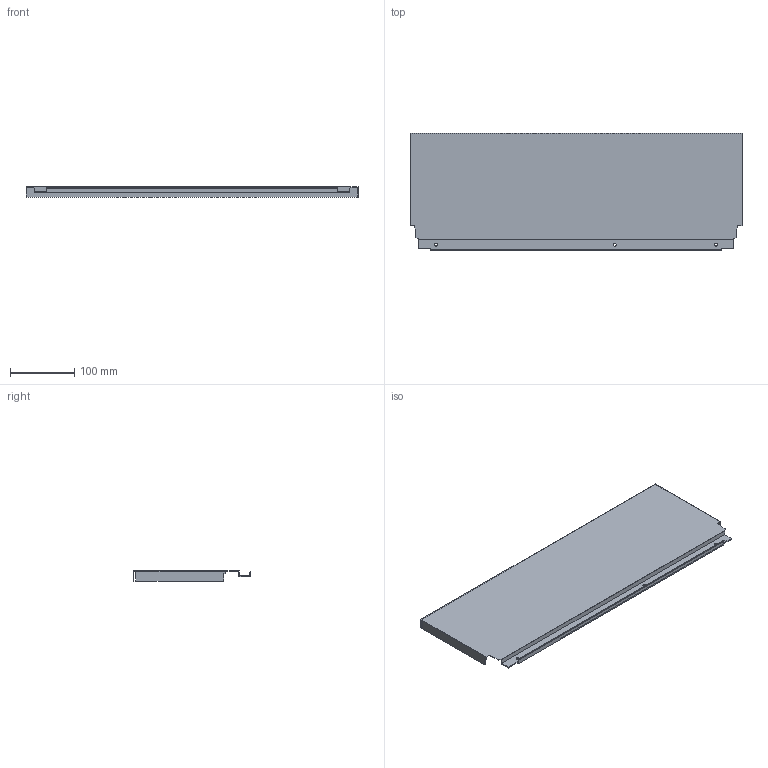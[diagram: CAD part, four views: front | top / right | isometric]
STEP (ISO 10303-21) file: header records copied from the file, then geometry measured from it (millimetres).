
FILE_DESCRIPTION (( 'STEP AP214' ), '1' );
FILE_NAME ('_DWD_XP Stahlrückwand_H182_KAB600_S17.step', '2010-07-08T12:57:44', ( 'grass' ), ( '' ), 'SwSTEP 2.0', 'SolidWorks 2010', '' );
FILE_SCHEMA (( 'AUTOMOTIVE_DESIGN' ));
Length unit declared in the file: millimetre
Products named in the file (1): _DWD_XP Stahlrückwand_H182_KAB600_S17
Bounding box: 515 x 182.49 x 16 mm (x, y, z)
Volume: 97165.7 mm3; surface area: 225474.5 mm2
Topology: 1 solids, 1 shells, 46 faces, 132 edges, 88 vertices
Faces by surface type: plane 40, cylinder 6
Entity records: 1534 total; most frequent: CARTESIAN_POINT 267, ORIENTED_EDGE 264, DIRECTION 238, EDGE_CURVE 132, LINE 120, VECTOR 120, VERTEX_POINT 88, AXIS2_PLACEMENT_3D 59
